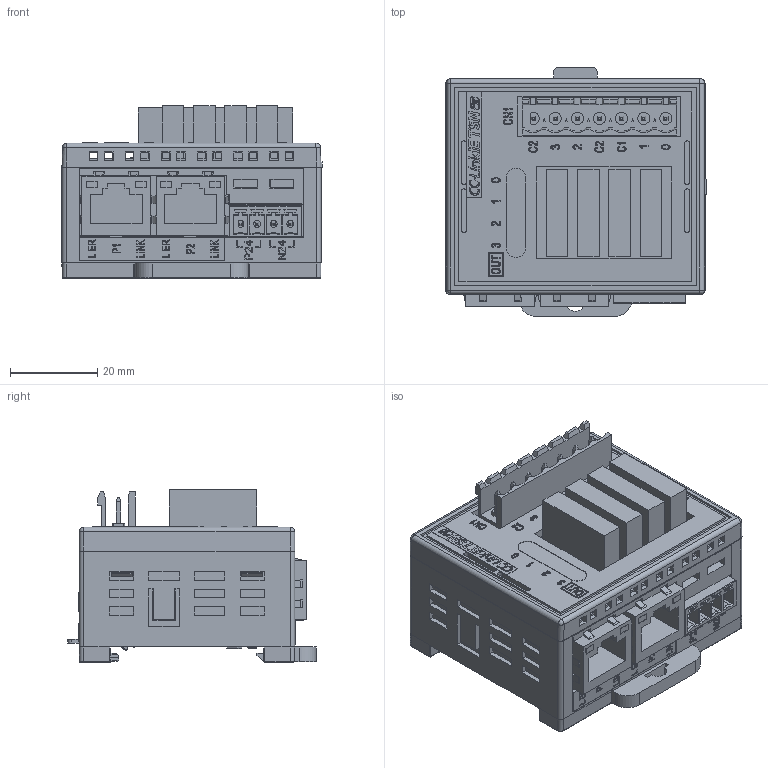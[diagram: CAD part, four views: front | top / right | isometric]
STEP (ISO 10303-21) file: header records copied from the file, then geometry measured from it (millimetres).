
FILE_DESCRIPTION((''),'2;1');
FILE_NAME('CTCBY04','2026-05-11T15:13:52',('gijyu181'),(''),'CREO PARAMETRIC BY PTC INC, 2018050','CREO PARAMETRIC BY PTC INC, 2018050','');
FILE_SCHEMA(('CONFIG_CONTROL_DESIGN','SHAPE_APPEARANCE_LAYERS_GROUPS'));
Products named in the file (1): CTCBY04
Bounding box: 59.75 x 57.15 x 39.6 mm (x, y, z)
Volume: 72227.4 mm3; surface area: 38305.7 mm2
Topology: 1 solids, 15 shells, 5313 faces, 14676 edges, 9674 vertices
Faces by surface type: plane 3882, cylinder 686, extrusion 613, sphere 51, cone 31, torus 26, bspline 24
Entity records: 215489 total; most frequent: CARTESIAN_POINT 38492, ORIENTED_EDGE 29320, DIRECTION 24466, EDGE_CURVE 14664, VECTOR 12314, LINE 11701, VERTEX_POINT 9674, PRESENTATION_STYLE_ASSIGNMENT 8795
